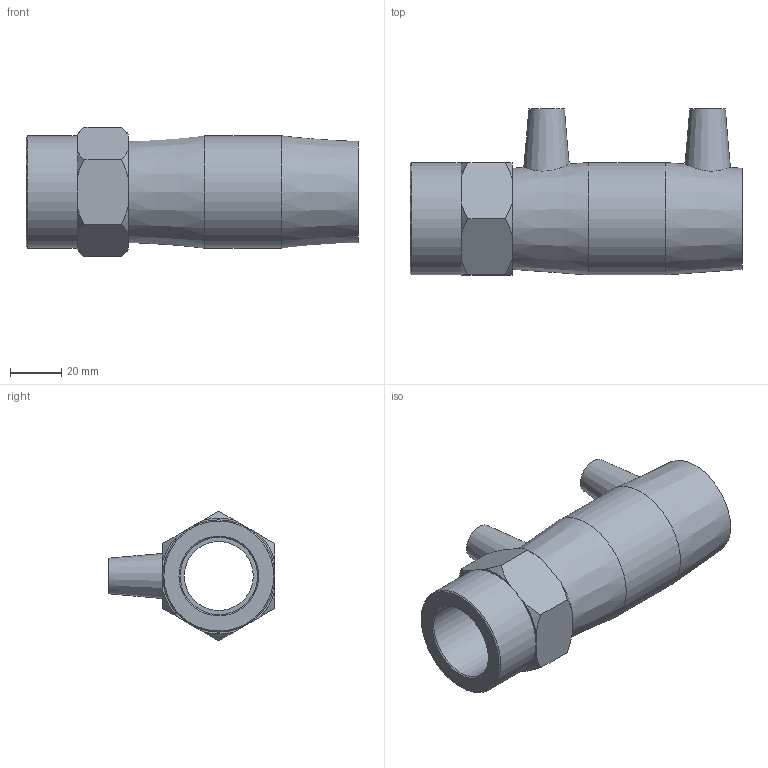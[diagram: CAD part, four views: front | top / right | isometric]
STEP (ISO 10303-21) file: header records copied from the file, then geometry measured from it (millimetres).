
FILE_DESCRIPTION(/* description */ ('PLASSON FEMALE TRANSITION COUPLER 32 x 1"'),/* implementation_level */ '2;1');
FILE_NAME(/* name */ 'C:\Dropbox\KIMPROJECTS-Inventor\99-16-3568-Processing\ElectroFusion Fittings\02.02.20\493104\493104032010N.ipt.stp',/* time_stamp */ '2020-02-02T12:20:18+02:00',/* author */ ('KIM'),/* organization */ (''),/* preprocessor_version */ 'ST-DEVELOPER v15.6',/* originating_system */ 'Autodesk Inventor 2015',/* authorisation */ '');
FILE_SCHEMA (('AUTOMOTIVE_DESIGN','AUTOMOTIVE_DESIGN { 1 0 10303 214 3 1 1 }'));
Length unit declared in the file: millimetre
Products named in the file (1): 493104032010N
Bounding box: 130 x 65 x 50.81 mm (x, y, z)
Volume: 108683.5 mm3; surface area: 35379.7 mm2
Topology: 1 solids, 1 shells, 54 faces, 121 edges, 77 vertices
Faces by surface type: plane 24, cone 20, cylinder 10
Full cylindrical faces by diameter (mm): 4 x2, 10 x2, 27 x1, 30.291 x1, 32 x2, 44 x2
Entity records: 1414 total; most frequent: CARTESIAN_POINT 335, DIRECTION 224, ORIENTED_EDGE 190, AXIS2_PLACEMENT_3D 100, EDGE_CURVE 95, EDGE_LOOP 84, VERTEX_POINT 71, FACE_OUTER_BOUND 54
